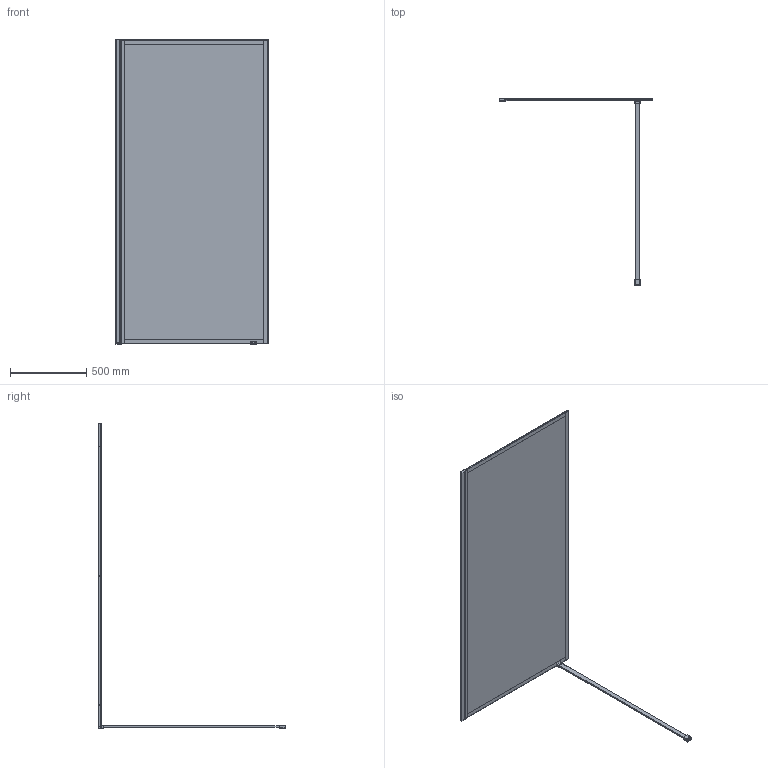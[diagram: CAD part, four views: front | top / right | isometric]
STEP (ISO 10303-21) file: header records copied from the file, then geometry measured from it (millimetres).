
FILE_DESCRIPTION((''),'2;1');
FILE_NAME('0-1000-W703510-5_ASM_ASM','2022-06-11T10:44:33',('M'),(''),'CREO PARAMETRIC BY PTC INC, 2017110','CREO PARAMETRIC BY PTC INC, 2017110','');
FILE_SCHEMA(('CONFIG_CONTROL_DESIGN'));
Length unit declared in the file: millimetre
Products named in the file (16): 00_7_1; 00_6-1070_1; U-0001_4_1; U-0002_7_1; 00_ASM_5_ASM_1_ASM; 004_7_1; 00_3_1; 00_6-2741_1; 0047_5_1; 0046_4_1; M4-5_4_1; 20002_2_1; 00_10_1; 0-W703510-5_ASM_20_ASM_1_ASM; 0-1000-W703510-5_ASM_ASM_1_ASM; 0-1000-W703510-5_ASM_ASM
Assembly tree (22 placements, depth 5):
  0-1000-W703510-5_ASM_ASM
    0-1000-W703510-5_ASM_ASM_1_ASM
      0-W703510-5_ASM_20_ASM_1_ASM
        00_7_1
        00_ASM_5_ASM_1_ASM
          00_6-1070_1
          U-0001_4_1  x2
          U-0002_7_1  x2
        004_7_1
        00_3_1
        00_6-2741_1
        0047_5_1
        0046_4_1
        M4-5_4_1  x6
        20002_2_1
        00_10_1
Bounding box: 1000 x 1234.72 x 2003 mm (x, y, z)
Volume: 18743160.4 mm3; surface area: 4702505.8 mm2
Topology: 19 solids, 19 shells, 357 faces, 944 edges, 638 vertices
Faces by surface type: cylinder 159, plane 158, bspline 36, cone 4
Entity records: 8630 total; most frequent: CARTESIAN_POINT 3764, DIRECTION 978, ORIENTED_EDGE 932, EDGE_CURVE 466, AXIS2_PLACEMENT_3D 346, VERTEX_POINT 316, VECTOR 286, LINE 286
